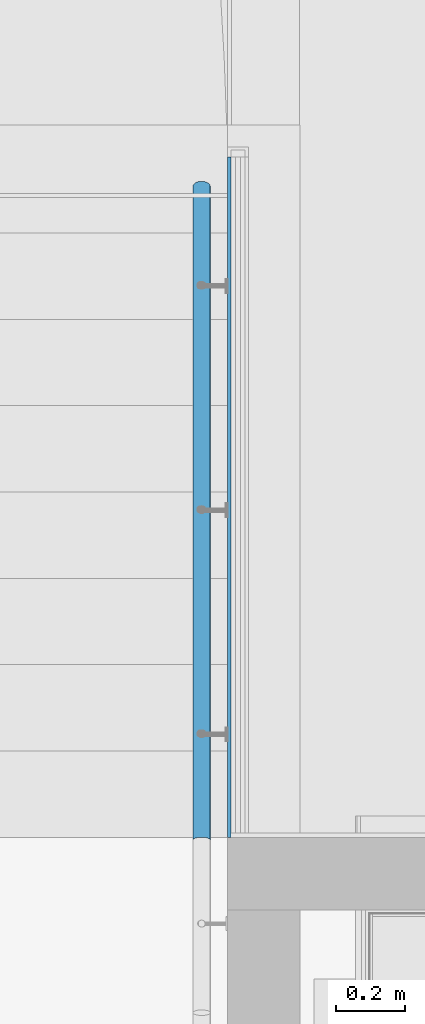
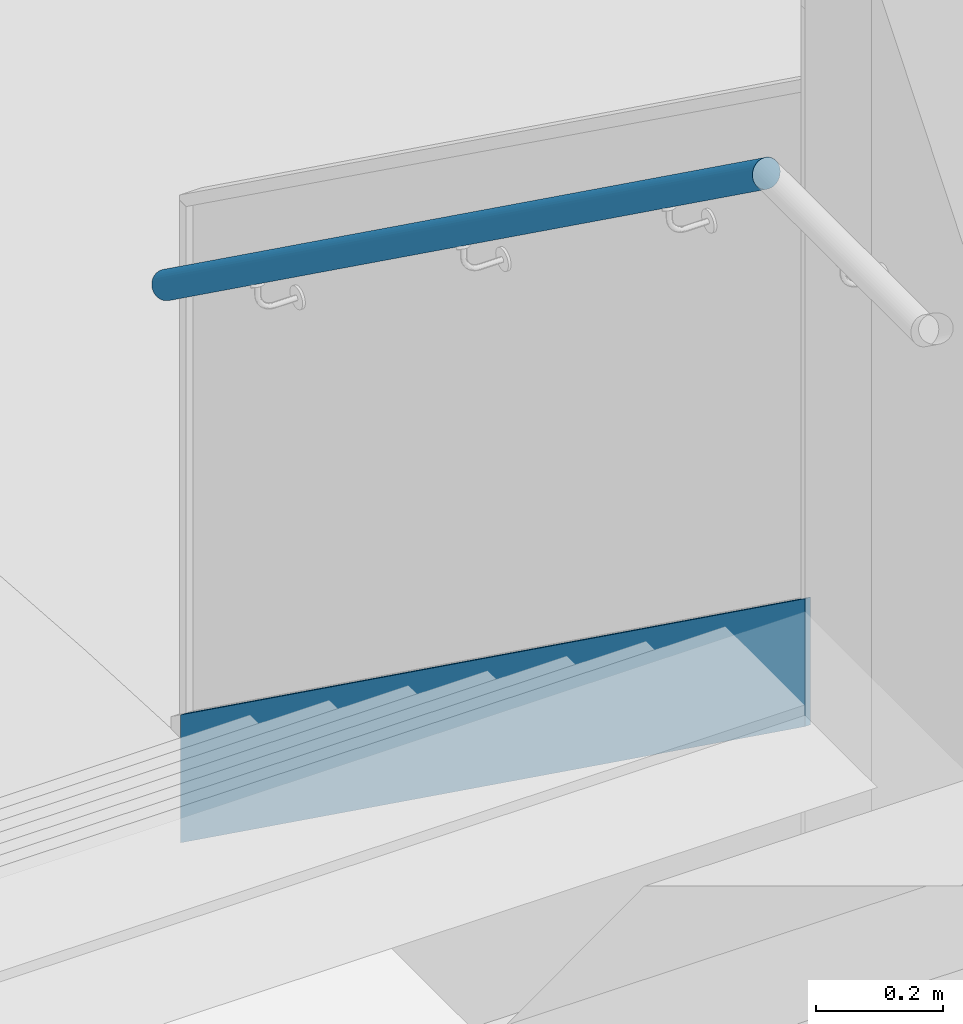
# One storey, part 124 of 347: 2 building element parts, 3 elements without a shape of their own.
"""IFC2X3 building model written with IfcOpenShell, lengths in millimetres."""

from ifc_helpers import new_model, entity, si_unit, converted_unit, derived_unit, money_unit, direction, frame, origin_with_axes, place, context, subcontext, project, spatial, faceted_brep, material, type_object, element, aggregate, save


model = new_model("IFC2X3")

# Units and contexts
model_context = context("Model", 3, precision=0.01, world=origin_with_axes(), true_north=direction((0.0, 1.0)))
plan_context = context("Plan", 3, precision=0.01, world=origin_with_axes(), true_north=direction((0.0, 1.0)))
body_context = subcontext(model_context, "Body", "Model", "MODEL_VIEW")
ifc_project = project(units=[si_unit("LENGTHUNIT", "METRE", prefix="MILLI"), si_unit("AREAUNIT", "SQUARE_METRE"), si_unit("VOLUMEUNIT", "CUBIC_METRE"), converted_unit("PLANEANGLEUNIT", "DEGREE", entity("IfcPlaneAngleMeasure", 0.0174532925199), si_unit("PLANEANGLEUNIT", "RADIAN"), dimensions=[0, 0, 0, 0, 0, 0, 0]), money_unit("EUR"), converted_unit("TIMEUNIT", "Year", entity("IfcTimeMeasure", 31556926.0), si_unit("TIMEUNIT", "SECOND"), dimensions=[0, 0, 1, 0, 0, 0, 0]), si_unit("MASSUNIT", "GRAM", prefix="KILO"), si_unit("THERMODYNAMICTEMPERATUREUNIT", "DEGREE_CELSIUS"), si_unit("LUMINOUSINTENSITYUNIT", "LUMEN"), si_unit("ENERGYUNIT", "JOULE", prefix="MEGA"), derived_unit("THERMALCONDUCTANCEUNIT", [(si_unit("POWERUNIT", "WATT"), 1), (si_unit("LENGTHUNIT", "METRE"), -1), (si_unit("THERMODYNAMICTEMPERATUREUNIT", "KELVIN"), -1)]), derived_unit("SPECIFICHEATCAPACITYUNIT", [(si_unit("ENERGYUNIT", "JOULE"), 1), (si_unit("MASSUNIT", "GRAM", prefix="KILO"), -1), (si_unit("THERMODYNAMICTEMPERATUREUNIT", "KELVIN"), -1)]), derived_unit("MASSDENSITYUNIT", [(si_unit("MASSUNIT", "GRAM", prefix="KILO"), 1), (si_unit("VOLUMEUNIT", "CUBIC_METRE"), -1)])], contexts=[model_context, plan_context])

# Site, building, storey
site_placement = place(None, origin_with_axes())
site = spatial("IfcSite", under=ifc_project, at=site_placement, Name="Site", CompositionType="ELEMENT")
building_placement = place(site_placement, origin_with_axes())
building = spatial("IfcBuilding", under=site, at=building_placement, Name="Naam gebouw", CompositionType="ELEMENT")
storey_placement = place(building_placement, origin_with_axes())
storey = spatial("IfcBuildingStorey", under=building, at=storey_placement, Name="begane grond", CompositionType="ELEMENT", Elevation=0.0)

# Beam, building element part
beam_type = type_object("IfcBeamType", Name="34 glazen balustrade 60 x 992", PredefinedType="BEAM")
beam_placement = place(storey_placement, frame((41575.0, 36769.9999997, 21.5999956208), z_axis=(0.0, 0.0, 1.0), x_axis=(-1.0, 0.0, 0.0)))
beam = element("IfcBeam", 1, at=beam_placement, inside=storey, type_object=beam_type, Name="28_Balk-x", ObjectType="BEAM")
ifc_material_1 = material(Name="Metaal - Staal C wit")
building_element_part_1_placement = place(beam_placement, origin_with_axes())
building_element_part_1 = element("IfcBuildingElementPart", 2, at=building_element_part_1_placement, material=ifc_material_1, Name="Metaal - Staal C wit", context=body_context, shape_type="Brep", body=[
    faceted_brep([(-10.0, 1969.99996392, 1270.53195401), (-10.0, 1969.99996392, 1196.59792883), (-10.0, 0.0, -221.802075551), (-10.0, 0.0, -147.868050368), (-10.0, 1969.99996392, 1443.04467944), (0.0, 1969.99996392, 1443.04467944), (0.0, 1969.99996392, 1196.59792883), (0.0, 0.0, -221.802075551), (0.0, 0.0, 24.6446750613), (-10.0, 0.0, 24.6446750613)], [[[0, 1, 2, 3]], [[0, 4, 5, 6, 1]], [[1, 6, 7, 2]], [[3, 2, 7, 8, 9]], [[4, 0, 3, 9]], [[5, 4, 9, 8]], [[6, 5, 8, 7]]]),
])
aggregate(beam, [building_element_part_1])

# Railing, member, building element part
railing_type = type_object("IfcRailingType", Name="Railing Type", PredefinedType="NOTDEFINED")
railing_placement = place(storey_placement, frame((41575.0, 36499.9999823, 72.0000018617), z_axis=(0.0, 0.0, 1.0), x_axis=(1.0, 0.0, 0.0)))
railing = element("IfcRailing", 3, at=railing_placement, inside=storey, type_object=railing_type, Name="_Reling-x", PredefinedType="NOTDEFINED")
member_type = type_object("IfcMemberType", Name="IfcMember", PredefinedType="USERDEFINED")
member_placement = place(railing_placement, frame((-75.0, -749.999964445, 844.098300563), z_axis=(0.0, 0.0, 1.0), x_axis=(1.0, 0.0, 0.0)))
member = element("IfcMember", 4, at=member_placement, type_object=member_type, Name="_Handregel-x")
aggregate(railing, [member])
ifc_material_2 = material(Name="Hout AFW")
building_element_part_2_placement = place(member_placement, origin_with_axes())
building_element_part_2 = element("IfcBuildingElementPart", 5, at=building_element_part_2_placement, material=ifc_material_2, Name="Hout AFW", context=body_context, shape_type="Brep", body=[
    faceted_brep([(25.0, 935.392363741, 35.6133410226), (24.6201938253, 937.928950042, 39.1363774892), (24.6201938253, -956.663411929, 1403.24290202), (25.0, -958.063653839, 1398.90169758), (24.6201938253, 932.855777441, 32.090304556), (23.4923155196, 930.396264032, 28.6743137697), (21.6506350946, 928.088554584, 25.4691618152), (19.151111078, 926.002767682, 22.5722356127), (16.0696902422, 924.202278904, 20.0715567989), (12.5, 922.741795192, 18.0431072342), (8.55050358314, 921.665692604, 16.5485203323), (4.34120444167, 921.006667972, 15.6332083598), (0.0, 920.784745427, 15.3249826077), (-4.34120444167, 921.006667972, 15.6332083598), (-8.55050358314, 921.665692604, 16.5485203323), (-12.5, 922.741795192, 18.0431072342), (-16.0696902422, 924.202278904, 20.0715567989), (-19.151111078, 926.002767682, 22.5722356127), (-21.6506350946, 928.088554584, 25.4691618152), (-23.4923155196, 930.396264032, 28.6743137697), (-24.6201938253, 932.855777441, 32.090304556), (-25.0, 935.392363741, 35.6133410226), (-24.6201938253, 937.928950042, 39.1363774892), (-23.4923155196, 940.388463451, 42.5523682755), (-21.6506350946, 942.696172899, 45.7575202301), (-19.151111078, 944.781959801, 48.6544464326), (-16.0696902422, 946.582448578, 51.1551252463), (-12.5, 948.042932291, 53.183574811), (-8.55050358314, 949.119034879, 54.6781617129), (-4.34120444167, 949.778059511, 55.5934736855), (0.0, 949.999982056, 55.9016994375), (4.34120444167, 949.778059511, 55.5934736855), (8.55050358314, 949.119034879, 54.6781617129), (12.5, 948.042932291, 53.183574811), (16.0696902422, 946.582448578, 51.1551252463), (19.151111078, 944.781959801, 48.6544464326), (21.6506350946, 942.696172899, 45.7575202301), (23.4923155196, 940.388463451, 42.5523682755), (23.4923155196, -955.30571566, 1407.45220116), (21.6506350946, -954.031817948, 1411.40169758), (19.151111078, -952.880425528, 1414.97138782), (16.0696902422, -951.886522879, 1418.05280865), (12.5, -951.080309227, 1420.55233267), (8.55050358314, -950.486280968, 1422.3940131), (4.34120444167, -950.122487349, 1423.5218914), (0.0, -949.999982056, 1423.90169758), (-4.34120444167, -950.122487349, 1423.5218914), (-8.55050358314, -950.486280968, 1422.3940131), (-12.5, -951.080309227, 1420.55233267), (-16.0696902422, -951.886522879, 1418.05280865), (-19.151111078, -952.880425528, 1414.97138782), (-21.6506350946, -954.031817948, 1411.40169758), (-23.4923155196, -955.30571566, 1407.45220116), (-24.6201938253, -956.663411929, 1403.24290202), (-25.0, -958.063653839, 1398.90169758), (-24.6201938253, -959.46389575, 1394.56049313), (-23.4923155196, -960.821592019, 1390.35119399), (-21.6506350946, -962.095489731, 1386.40169758), (-19.151111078, -963.24688215, 1382.83200733), (-16.0696902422, -964.2407848, 1379.7505865), (-12.5, -965.046998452, 1377.25106248), (-8.55050358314, -965.641026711, 1375.40938206), (-4.34120444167, -966.00482033, 1374.28150375), (0.0, -966.127325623, 1373.90169758), (4.34120444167, -966.00482033, 1374.28150375), (8.55050358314, -965.641026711, 1375.40938206), (12.5, -965.046998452, 1377.25106248), (16.0696902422, -964.2407848, 1379.7505865), (19.151111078, -963.24688215, 1382.83200733), (21.6506350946, -962.095489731, 1386.40169758), (23.4923155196, -960.821592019, 1390.35119399), (24.6201938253, -959.46389575, 1394.56049313)], [[[0, 1, 2, 3]], [[0, 4, 5, 6, 7, 8, 9, 10, 11, 12, 13, 14, 15, 16, 17, 18, 19, 20, 21, 22, 23, 24, 25, 26, 27, 28, 29, 30, 31, 32, 33, 34, 35, 36, 37, 1]], [[1, 37, 38, 2]], [[3, 2, 38, 39, 40, 41, 42, 43, 44, 45, 46, 47, 48, 49, 50, 51, 52, 53, 54, 55, 56, 57, 58, 59, 60, 61, 62, 63, 64, 65, 66, 67, 68, 69, 70, 71]], [[4, 0, 3, 71]], [[5, 4, 71, 70]], [[6, 5, 70, 69]], [[7, 6, 69, 68]], [[8, 7, 68, 67]], [[9, 8, 67, 66]], [[10, 9, 66, 65]], [[11, 10, 65, 64]], [[12, 11, 64, 63]], [[13, 12, 63, 62]], [[14, 13, 62, 61]], [[15, 14, 61, 60]], [[16, 15, 60, 59]], [[17, 16, 59, 58]], [[18, 17, 58, 57]], [[19, 18, 57, 56]], [[20, 19, 56, 55]], [[21, 20, 55, 54]], [[22, 21, 54, 53]], [[23, 22, 53, 52]], [[24, 23, 52, 51]], [[25, 24, 51, 50]], [[26, 25, 50, 49]], [[27, 26, 49, 48]], [[28, 27, 48, 47]], [[29, 28, 47, 46]], [[30, 29, 46, 45]], [[31, 30, 45, 44]], [[32, 31, 44, 43]], [[33, 32, 43, 42]], [[34, 33, 42, 41]], [[35, 34, 41, 40]], [[36, 35, 40, 39]], [[37, 36, 39, 38]]]),
])
aggregate(member, [building_element_part_2])

save(model, "model.ifc")
